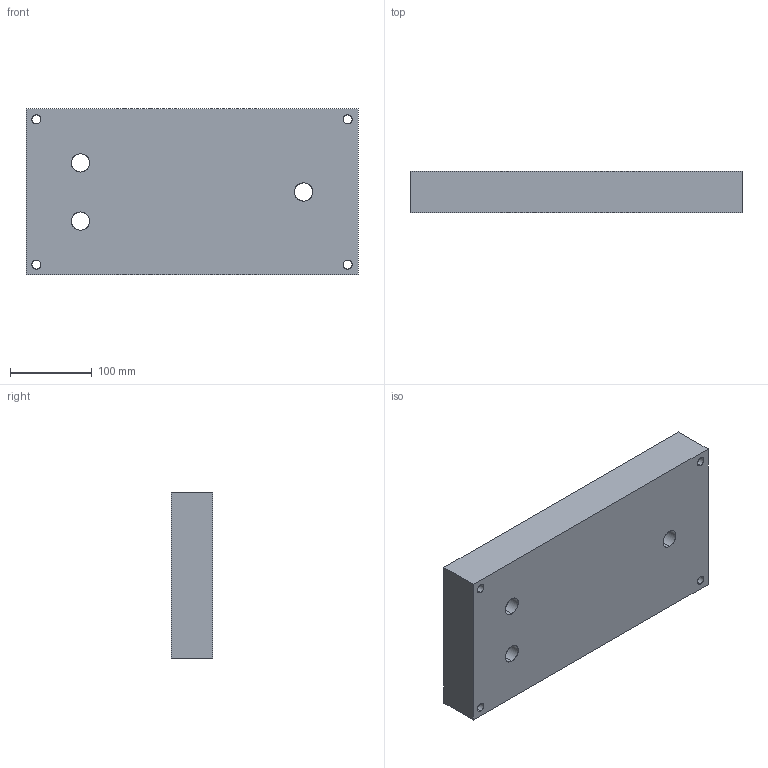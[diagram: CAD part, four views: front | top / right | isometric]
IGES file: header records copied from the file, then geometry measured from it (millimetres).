
Start section: SolidWorks IGES file using analytic representation for surfaces
Global section: file name: C:\Users\md90767\OneDrive - harriscomputer\Desktop\Current Launchpad Projects\V13 - GETTING STARTED\Part Files\Mill Router Tutorial IGS.IGS; native system: SolidWorks 2025; preprocessor: SolidWorks 2025; author: md90767; date: 250923.124826; units: inch
Bounding box: 406.4 x 50.8 x 203.2 mm (x, y, z)
Surface area: 290545.6 mm2 (no closed solid volume)
Topology: 0 solids, 0 shells, 60 faces, 1188 edges, 1188 vertices
Faces by surface type: bspline 60
